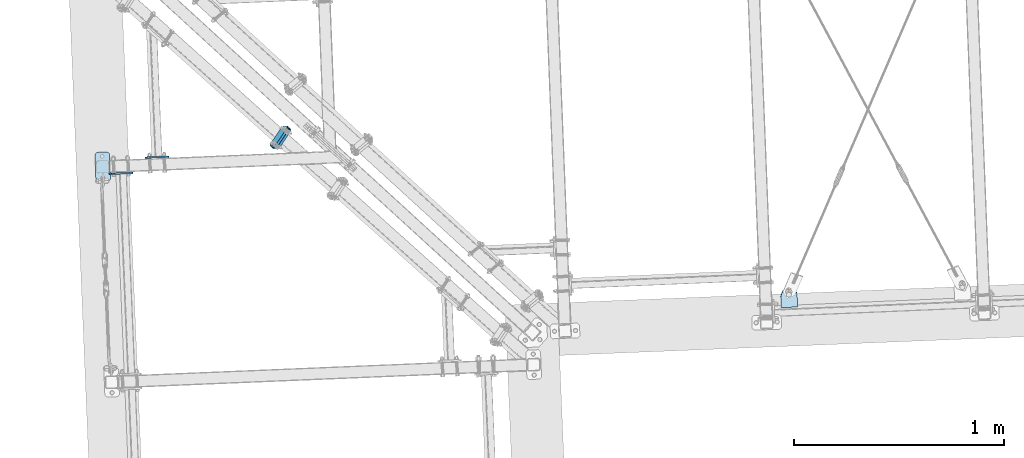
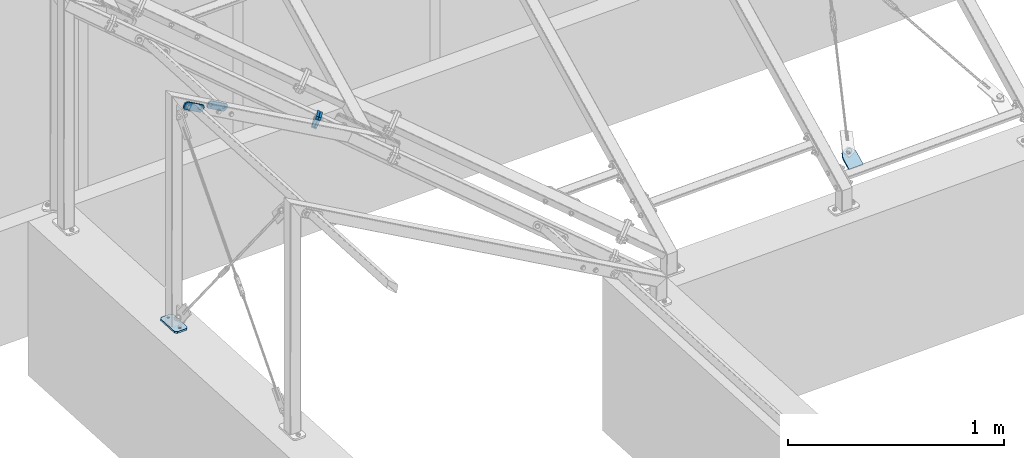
# One storey, part 54 of 288: 6 plates, 38 openings.
"""IFC2X3 building model written with IfcOpenShell, lengths in millimetres."""

from ifc_helpers import new_model, entity, si_unit, converted_unit, point, frame, frame_2d, origin, origin_with_axes, origin_2d_with_axis, place, context, project, spatial, polyline, circle_curve, line_curve, trimmed, segment, composite_curve, circle, outline, extrude, material, layer, layer_set, element, save


model = new_model("IFC2X3")

# Units and contexts
model_context = context("Model", 3, precision=1e-09, world=origin_with_axes())
ifc_project = project(units=[si_unit("LENGTHUNIT", "METRE", prefix="MILLI"), si_unit("AREAUNIT", "SQUARE_METRE"), si_unit("VOLUMEUNIT", "CUBIC_METRE"), converted_unit("PLANEANGLEUNIT", "DEGREE", entity("IfcPlaneAngleMeasure", 0.01745329), si_unit("PLANEANGLEUNIT", "RADIAN"), dimensions=[0, 0, 0, 0, 0, 0, 0])], contexts=[model_context])

# Site, building, storey
site_placement = place(None, origin_with_axes())
site = spatial("IfcSite", under=ifc_project, at=site_placement, Name="Remont ?wietlik?w nad MC w NCPP w Opolu", CompositionType="ELEMENT")
building_placement = place(site_placement, origin_with_axes())
building = spatial("IfcBuilding", under=site, at=building_placement, Name="Konstrukcja 1", CompositionType="ELEMENT")
storey_placement = place(building_placement, origin_with_axes())
storey = spatial("IfcBuildingStorey", under=building, at=storey_placement, Name="Default Storey", CompositionType="ELEMENT", Elevation=0.0)

# Plate, openings
ifc_material = material(Name="S235")
ifc_layer_1 = layer(ifc_material, 8.0)
ifc_layer_set_1 = layer_set([ifc_layer_1], Name="S235")
plate_1_placement = place(None, frame((-697.947111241, 14323.659266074, 1232.679479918), z_axis=(-0.041662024, 0.999131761, 1.7472e-05), x_axis=(0.499566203, 0.020815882, 0.866025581)))
plate_1 = element("IfcPlate", 1, at=plate_1_placement, inside=storey, material=ifc_layer_set_1, Name="-", ObjectType="-", context=model_context, shape_type="SweptSolid", body=[
    extrude(outline(polyline([(0.0, 0.0), (40.0, 0.0), (40.0, 120.0), (0.0, 120.0), (0.0, 0.0)])), origin_with_axes(), (0.0, 0.0, 1.0), 8.0),
])
opening_1_placement = place(plate_1_placement, frame((0.0, 0.0, -0.01), z_axis=(0.0, 0.0, 1.0), x_axis=(1.0, 0.0, 0.0)))
element("IfcOpeningElement", 2, at=opening_1_placement, cuts=plate_1, ObjectType="Opening", context=model_context, shape_type="SweptSolid", body=[
    extrude(outline(composite_curve([segment(trimmed(line_curve((40.0, 0.0), (0.0, 1.0), 10.0), [point((40.0, 0.0))], [point((40.0, 10.0))], True, "CARTESIAN"), True, "CONTINUOUS"), segment(trimmed(circle_curve(frame_2d((30.0, 10.0), x_axis=(-1.0, 0.0)), 10.0), [point((40.0, 10.0))], [point((30.0, 0.0))], False, "CARTESIAN"), True, "CONTINUOUS"), segment(trimmed(line_curve((30.0, 0.0), (1.0, 0.0), 10.0), [point((30.0, 0.0))], [point((40.0, 0.0))], True, "CARTESIAN"), True, "CONTINUOUS")], self_intersect=False)), origin(), (0.0, 0.0, 1.0), 8.02),
])
opening_2_placement = place(plate_1_placement, frame((0.0, 0.0, -0.01), z_axis=(0.0, 0.0, 1.0), x_axis=(1.0, 0.0, 0.0)))
element("IfcOpeningElement", 3, at=opening_2_placement, cuts=plate_1, ObjectType="Opening", context=model_context, shape_type="SweptSolid", body=[
    extrude(outline(composite_curve([segment(trimmed(line_curve((0.0, 0.0), (1.0, 0.0), 10.0), [point((0.0, 0.0))], [point((10.0, 0.0))], True, "CARTESIAN"), True, "CONTINUOUS"), segment(trimmed(circle_curve(frame_2d((10.0, 10.0), x_axis=(-1.0, 0.0)), 10.0), [point((10.0, 0.0))], [point((0.0, 10.0))], False, "CARTESIAN"), True, "CONTINUOUS"), segment(trimmed(line_curve((0.0, 10.0), (0.0, -1.0), 10.0), [point((0.0, 10.0))], [point((0.0, 0.0))], True, "CARTESIAN"), True, "CONTINUOUS")], self_intersect=False)), origin(), (0.0, 0.0, 1.0), 8.02),
])
opening_3_placement = place(plate_1_placement, frame((0.0, 0.0, -0.01), z_axis=(0.0, 0.0, 1.0), x_axis=(1.0, 0.0, 0.0)))
element("IfcOpeningElement", 4, at=opening_3_placement, cuts=plate_1, ObjectType="Opening", context=model_context, shape_type="SweptSolid", body=[
    extrude(outline(composite_curve([segment(trimmed(line_curve((40.0, 120.0), (-1.0, 0.0), 10.0), [point((40.0, 120.0))], [point((30.0, 120.0))], True, "CARTESIAN"), True, "CONTINUOUS"), segment(trimmed(circle_curve(frame_2d((30.0, 110.0), x_axis=(-1.0, 0.0)), 10.0), [point((30.0, 120.0))], [point((40.0, 110.0))], False, "CARTESIAN"), True, "CONTINUOUS"), segment(trimmed(line_curve((40.0, 110.0), (0.0, 1.0), 10.0), [point((40.0, 110.0))], [point((40.0, 120.0))], True, "CARTESIAN"), True, "CONTINUOUS")], self_intersect=False)), origin(), (0.0, 0.0, 1.0), 8.02),
])
opening_4_placement = place(plate_1_placement, frame((0.0, 0.0, -0.01), z_axis=(0.0, 0.0, 1.0), x_axis=(1.0, 0.0, 0.0)))
element("IfcOpeningElement", 5, at=opening_4_placement, cuts=plate_1, ObjectType="Opening", context=model_context, shape_type="SweptSolid", body=[
    extrude(outline(composite_curve([segment(trimmed(line_curve((0.0, 120.0), (0.0, -1.0), 10.0), [point((0.0, 120.0))], [point((0.0, 110.0))], True, "CARTESIAN"), True, "CONTINUOUS"), segment(trimmed(circle_curve(frame_2d((10.0, 110.0), x_axis=(-1.0, 0.0)), 10.0), [point((0.0, 110.0))], [point((10.0, 120.0))], False, "CARTESIAN"), True, "CONTINUOUS"), segment(trimmed(line_curve((10.0, 120.0), (-1.0, 0.0), 10.0), [point((10.0, 120.0))], [point((0.0, 120.0))], True, "CARTESIAN"), True, "CONTINUOUS")], self_intersect=False)), origin(), (0.0, 0.0, 1.0), 8.02),
])
opening_5_placement = place(plate_1_placement, frame((19.999829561, 27.001003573, 8.499903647), z_axis=(-2.0054e-05, 4.2e-07, 1.0), x_axis=(1.0, 0.0, 2.0054e-05)))
element("IfcOpeningElement", 6, at=opening_5_placement, cuts=plate_1, ObjectType="Opening", context=model_context, shape_type="SweptSolid", body=[
    extrude(circle(Radius=7.001, at=frame_2d((-4e-09, -7.001), x_axis=(1.0, 0.0))), origin(), (0.0, 0.0, -1.0), 9.000033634),
])
opening_6_placement = place(plate_1_placement, frame((19.999829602, 107.001003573, 8.499870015), z_axis=(-2.0054e-05, 4.2e-07, 1.0), x_axis=(1.0, 0.0, 2.0054e-05)))
element("IfcOpeningElement", 7, at=opening_6_placement, cuts=plate_1, ObjectType="Opening", context=model_context, shape_type="SweptSolid", body=[
    extrude(circle(Radius=7.001, at=frame_2d((-4e-09, -7.001), x_axis=(1.0, 0.0))), origin(), (0.0, 0.0, -1.0), 9.000033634),
])

plate_2_placement = place(None, frame((-527.73537841, 14400.819367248, 1132.808020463), z_axis=(-0.041662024, 0.999131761, 1.7472e-05), x_axis=(0.499566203, 0.020815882, 0.866025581)))
plate_2 = element("IfcPlate", 8, at=plate_2_placement, inside=storey, material=ifc_layer_set_1, Name="-", ObjectType="-", context=model_context, shape_type="SweptSolid", body=[
    extrude(outline(polyline([(0.0, 0.0), (40.0, 0.0), (40.0, 120.0), (0.0, 120.0), (0.0, 0.0)])), origin_with_axes(), (0.0, 0.0, 1.0), 8.0),
])
opening_7_placement = place(plate_2_placement, frame((0.0, 0.0, -0.01), z_axis=(0.0, 0.0, 1.0), x_axis=(1.0, 0.0, 0.0)))
element("IfcOpeningElement", 9, at=opening_7_placement, cuts=plate_2, ObjectType="Opening", context=model_context, shape_type="SweptSolid", body=[
    extrude(outline(composite_curve([segment(trimmed(line_curve((40.0, 0.0), (0.0, 1.0), 10.0), [point((40.0, 0.0))], [point((40.0, 10.0))], True, "CARTESIAN"), True, "CONTINUOUS"), segment(trimmed(circle_curve(frame_2d((30.0, 10.0), x_axis=(-1.0, 0.0)), 10.0), [point((40.0, 10.0))], [point((30.0, 0.0))], False, "CARTESIAN"), True, "CONTINUOUS"), segment(trimmed(line_curve((30.0, 0.0), (1.0, 0.0), 10.0), [point((30.0, 0.0))], [point((40.0, 0.0))], True, "CARTESIAN"), True, "CONTINUOUS")], self_intersect=False)), origin(), (0.0, 0.0, 1.0), 8.02),
])
opening_8_placement = place(plate_2_placement, frame((0.0, 0.0, -0.01), z_axis=(0.0, 0.0, 1.0), x_axis=(1.0, 0.0, 0.0)))
element("IfcOpeningElement", 10, at=opening_8_placement, cuts=plate_2, ObjectType="Opening", context=model_context, shape_type="SweptSolid", body=[
    extrude(outline(composite_curve([segment(trimmed(line_curve((0.0, 0.0), (1.0, 0.0), 10.0), [point((0.0, 0.0))], [point((10.0, 0.0))], True, "CARTESIAN"), True, "CONTINUOUS"), segment(trimmed(circle_curve(frame_2d((10.0, 10.0), x_axis=(-1.0, 0.0)), 10.0), [point((10.0, 0.0))], [point((0.0, 10.0))], False, "CARTESIAN"), True, "CONTINUOUS"), segment(trimmed(line_curve((0.0, 10.0), (0.0, -1.0), 10.0), [point((0.0, 10.0))], [point((0.0, 0.0))], True, "CARTESIAN"), True, "CONTINUOUS")], self_intersect=False)), origin(), (0.0, 0.0, 1.0), 8.02),
])
opening_9_placement = place(plate_2_placement, frame((0.0, 0.0, -0.01), z_axis=(0.0, 0.0, 1.0), x_axis=(1.0, 0.0, 0.0)))
element("IfcOpeningElement", 11, at=opening_9_placement, cuts=plate_2, ObjectType="Opening", context=model_context, shape_type="SweptSolid", body=[
    extrude(outline(composite_curve([segment(trimmed(line_curve((40.0, 120.0), (-1.0, 0.0), 10.0), [point((40.0, 120.0))], [point((30.0, 120.0))], True, "CARTESIAN"), True, "CONTINUOUS"), segment(trimmed(circle_curve(frame_2d((30.0, 110.0), x_axis=(-1.0, 0.0)), 10.0), [point((30.0, 120.0))], [point((40.0, 110.0))], False, "CARTESIAN"), True, "CONTINUOUS"), segment(trimmed(line_curve((40.0, 110.0), (0.0, 1.0), 10.0), [point((40.0, 110.0))], [point((40.0, 120.0))], True, "CARTESIAN"), True, "CONTINUOUS")], self_intersect=False)), origin(), (0.0, 0.0, 1.0), 8.02),
])
opening_10_placement = place(plate_2_placement, frame((0.0, 0.0, -0.01), z_axis=(0.0, 0.0, 1.0), x_axis=(1.0, 0.0, 0.0)))
element("IfcOpeningElement", 12, at=opening_10_placement, cuts=plate_2, ObjectType="Opening", context=model_context, shape_type="SweptSolid", body=[
    extrude(outline(composite_curve([segment(trimmed(line_curve((0.0, 120.0), (0.0, -1.0), 10.0), [point((0.0, 120.0))], [point((0.0, 110.0))], True, "CARTESIAN"), True, "CONTINUOUS"), segment(trimmed(circle_curve(frame_2d((10.0, 110.0), x_axis=(-1.0, 0.0)), 10.0), [point((0.0, 110.0))], [point((10.0, 120.0))], False, "CARTESIAN"), True, "CONTINUOUS"), segment(trimmed(line_curve((10.0, 120.0), (-1.0, 0.0), 10.0), [point((10.0, 120.0))], [point((0.0, 120.0))], True, "CARTESIAN"), True, "CONTINUOUS")], self_intersect=False)), origin(), (0.0, 0.0, 1.0), 8.02),
])
opening_11_placement = place(plate_2_placement, frame((19.99842578, 27.001033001, 8.499903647), z_axis=(-2.0054e-05, 4.2e-07, 1.0), x_axis=(1.0, 0.0, 2.0054e-05)))
element("IfcOpeningElement", 13, at=opening_11_placement, cuts=plate_2, ObjectType="Opening", context=model_context, shape_type="SweptSolid", body=[
    extrude(circle(Radius=7.001, at=frame_2d((-4e-09, -7.001), x_axis=(1.0, 0.0))), origin(), (0.0, 0.0, -1.0), 9.000033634),
])
opening_12_placement = place(plate_2_placement, frame((19.998425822, 107.001033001, 8.499870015), z_axis=(-2.0054e-05, 4.2e-07, 1.0), x_axis=(1.0, 0.0, 2.0054e-05)))
element("IfcOpeningElement", 14, at=opening_12_placement, cuts=plate_2, ObjectType="Opening", context=model_context, shape_type="SweptSolid", body=[
    extrude(circle(Radius=7.001, at=frame_2d((-4e-09, -7.001), x_axis=(1.0, 0.0))), origin(), (0.0, 0.0, -1.0), 9.000033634),
])

ifc_layer_2 = layer(ifc_material, 10.0)
ifc_layer_set_2 = layer_set([ifc_layer_2], Name="S235")
plate_3_placement = place(None, frame((-761.990295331, 14430.082499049, 10.000000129), z_axis=(0.0, 0.0, -1.0), x_axis=(0.999131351, 0.041671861, 0.0)))
plate_3 = element("IfcPlate", 15, at=plate_3_placement, inside=storey, material=ifc_layer_set_2, Name="Baseplate", ObjectType="Baseplate", context=model_context, shape_type="SweptSolid", body=[
    extrude(outline(polyline([(0.0, 0.0), (70.0, 0.0), (70.0, 140.0), (0.0, 140.0), (0.0, 0.0)])), origin_with_axes(), (0.0, 0.0, 1.0), 10.0),
])
opening_13_placement = place(plate_3_placement, frame((0.0, 0.0, -0.01), z_axis=(0.0, 0.0, 1.0), x_axis=(1.0, 0.0, 0.0)))
element("IfcOpeningElement", 16, at=opening_13_placement, cuts=plate_3, ObjectType="Opening", context=model_context, shape_type="SweptSolid", body=[
    extrude(outline(composite_curve([segment(trimmed(line_curve((70.0, 0.0), (0.0, 1.0), 10.0), [point((70.0, 0.0))], [point((70.0, 10.0))], True, "CARTESIAN"), True, "CONTINUOUS"), segment(trimmed(circle_curve(frame_2d((60.0, 10.0), x_axis=(-1.0, 0.0)), 10.0), [point((70.0, 10.0))], [point((60.0, 0.0))], False, "CARTESIAN"), True, "CONTINUOUS"), segment(trimmed(line_curve((60.0, 0.0), (1.0, 0.0), 10.0), [point((60.0, 0.0))], [point((70.0, 0.0))], True, "CARTESIAN"), True, "CONTINUOUS")], self_intersect=False)), origin(), (0.0, 0.0, 1.0), 10.02),
])
opening_14_placement = place(plate_3_placement, frame((0.0, 0.0, -0.01), z_axis=(0.0, 0.0, 1.0), x_axis=(1.0, 0.0, 0.0)))
element("IfcOpeningElement", 17, at=opening_14_placement, cuts=plate_3, ObjectType="Opening", context=model_context, shape_type="SweptSolid", body=[
    extrude(outline(composite_curve([segment(trimmed(line_curve((0.0, 0.0), (1.0, 0.0), 10.0), [point((0.0, 0.0))], [point((10.0, 0.0))], True, "CARTESIAN"), True, "CONTINUOUS"), segment(trimmed(circle_curve(frame_2d((10.0, 10.0), x_axis=(-1.0, 0.0)), 10.0), [point((10.0, 0.0))], [point((0.0, 10.0))], False, "CARTESIAN"), True, "CONTINUOUS"), segment(trimmed(line_curve((0.0, 10.0), (0.0, -1.0), 10.0), [point((0.0, 10.0))], [point((0.0, 0.0))], True, "CARTESIAN"), True, "CONTINUOUS")], self_intersect=False)), origin(), (0.0, 0.0, 1.0), 10.02),
])
opening_15_placement = place(plate_3_placement, frame((0.0, 0.0, -0.01), z_axis=(0.0, 0.0, 1.0), x_axis=(1.0, 0.0, 0.0)))
element("IfcOpeningElement", 18, at=opening_15_placement, cuts=plate_3, ObjectType="Opening", context=model_context, shape_type="SweptSolid", body=[
    extrude(outline(composite_curve([segment(trimmed(line_curve((70.0, 140.0), (-1.0, 0.0), 10.0), [point((70.0, 140.0))], [point((60.0, 140.0))], True, "CARTESIAN"), True, "CONTINUOUS"), segment(trimmed(circle_curve(frame_2d((60.0, 130.0), x_axis=(-1.0, 0.0)), 10.0), [point((60.0, 140.0))], [point((70.0, 130.0))], False, "CARTESIAN"), True, "CONTINUOUS"), segment(trimmed(line_curve((70.0, 130.0), (0.0, 1.0), 10.0), [point((70.0, 130.0))], [point((70.0, 140.0))], True, "CARTESIAN"), True, "CONTINUOUS")], self_intersect=False)), origin(), (0.0, 0.0, 1.0), 10.02),
])
opening_16_placement = place(plate_3_placement, frame((0.0, 0.0, -0.01), z_axis=(0.0, 0.0, 1.0), x_axis=(1.0, 0.0, 0.0)))
element("IfcOpeningElement", 19, at=opening_16_placement, cuts=plate_3, ObjectType="Opening", context=model_context, shape_type="SweptSolid", body=[
    extrude(outline(composite_curve([segment(trimmed(line_curve((0.0, 140.0), (0.0, -1.0), 10.0), [point((0.0, 140.0))], [point((0.0, 130.0))], True, "CARTESIAN"), True, "CONTINUOUS"), segment(trimmed(circle_curve(frame_2d((10.0, 130.0), x_axis=(-1.0, 0.0)), 10.0), [point((0.0, 130.0))], [point((10.0, 140.0))], False, "CARTESIAN"), True, "CONTINUOUS"), segment(trimmed(line_curve((10.0, 140.0), (-1.0, 0.0), 10.0), [point((10.0, 140.0))], [point((0.0, 140.0))], True, "CARTESIAN"), True, "CONTINUOUS")], self_intersect=False)), origin(), (0.0, 0.0, 1.0), 10.02),
])
opening_17_placement = place(plate_3_placement, frame((35.0, 20.0, 10.5), z_axis=(0.0, 0.0, -1.0), x_axis=(1.0, 0.0, 0.0)))
element("IfcOpeningElement", 20, at=opening_17_placement, cuts=plate_3, ObjectType="Opening", context=model_context, shape_type="SweptSolid", body=[
    extrude(circle(Radius=6.001, at=origin_2d_with_axis()), origin(), (0.0, 0.0, 1.0), 11.0),
])
opening_18_placement = place(plate_3_placement, frame((35.0, 120.0, 10.5), z_axis=(0.0, 0.0, -1.0), x_axis=(1.0, 0.0, 0.0)))
element("IfcOpeningElement", 21, at=opening_18_placement, cuts=plate_3, ObjectType="Opening", context=model_context, shape_type="SweptSolid", body=[
    extrude(circle(Radius=6.001, at=origin_2d_with_axis()), origin(), (0.0, 0.0, 1.0), 11.0),
])

ifc_layer_3 = layer(ifc_material, 12.0)
ifc_layer_set_3 = layer_set([ifc_layer_3], Name="S235")
plate_4_placement = place(None, frame((105.788392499, 14453.89859045, 823.698605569), z_axis=(0.688159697, -0.616779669, -0.382124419), x_axis=(-0.499565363, -0.020836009, -0.866025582)))
plate_4 = element("IfcPlate", 22, at=plate_4_placement, inside=storey, material=ifc_layer_set_3, Name="Endplate#1", ObjectType="Endplate#1", context=model_context, shape_type="SweptSolid", body=[
    extrude(outline(polyline([(0.0, 0.0), (60.0, 0.0), (60.0, 120.0), (0.0, 120.0), (0.0, 0.0)])), origin_with_axes(), (0.0, 0.0, 1.0), 12.0),
])
opening_19_placement = place(plate_4_placement, frame((15.0, 60.0, 12.5), z_axis=(0.0, 0.0, -1.0), x_axis=(1.0, 0.0, 0.0)))
element("IfcOpeningElement", 23, at=opening_19_placement, cuts=plate_4, ObjectType="Opening", context=model_context, shape_type="SweptSolid", body=[
    extrude(circle(Radius=6.001, at=frame_2d((0.0, 45.0), x_axis=(1.0, 0.0))), origin(), (0.0, 0.0, 1.0), 13.0),
])
opening_20_placement = place(plate_4_placement, frame((15.0, 60.0, 12.5), z_axis=(0.0, 0.0, -1.0), x_axis=(1.0, 0.0, 0.0)))
element("IfcOpeningElement", 24, at=opening_20_placement, cuts=plate_4, ObjectType="Opening", context=model_context, shape_type="SweptSolid", body=[
    extrude(circle(Radius=6.001, at=frame_2d((0.0, -45.0), x_axis=(1.0, 0.0))), origin(), (0.0, 0.0, 1.0), 13.0),
])
opening_21_placement = place(plate_4_placement, frame((45.0, 60.0, 12.5), z_axis=(0.0, 0.0, -1.0), x_axis=(1.0, 0.0, 0.0)))
element("IfcOpeningElement", 25, at=opening_21_placement, cuts=plate_4, ObjectType="Opening", context=model_context, shape_type="SweptSolid", body=[
    extrude(circle(Radius=6.001, at=frame_2d((0.0, 45.0), x_axis=(1.0, 0.0))), origin(), (0.0, 0.0, 1.0), 13.0),
])
opening_22_placement = place(plate_4_placement, frame((45.0, 60.0, 12.5), z_axis=(0.0, 0.0, -1.0), x_axis=(1.0, 0.0, 0.0)))
element("IfcOpeningElement", 26, at=opening_22_placement, cuts=plate_4, ObjectType="Opening", context=model_context, shape_type="SweptSolid", body=[
    extrude(circle(Radius=6.001, at=frame_2d((0.0, -45.0), x_axis=(1.0, 0.0))), origin(), (0.0, 0.0, 1.0), 13.0),
])
opening_23_placement = place(plate_4_placement, frame((0.0, 0.0, -0.01), z_axis=(0.0, 0.0, 1.0), x_axis=(1.0, 0.0, 0.0)))
element("IfcOpeningElement", 27, at=opening_23_placement, cuts=plate_4, ObjectType="Opening", context=model_context, shape_type="SweptSolid", body=[
    extrude(outline(composite_curve([segment(trimmed(line_curve((0.0, 120.0), (0.0, -1.0), 10.0), [point((0.0, 120.0))], [point((0.0, 110.0))], True, "CARTESIAN"), True, "CONTINUOUS"), segment(trimmed(circle_curve(frame_2d((10.0, 110.0), x_axis=(-1.0, 0.0)), 10.0), [point((0.0, 110.0))], [point((10.0, 120.0))], False, "CARTESIAN"), True, "CONTINUOUS"), segment(trimmed(line_curve((10.0, 120.0), (-1.0, 0.0), 10.0), [point((10.0, 120.0))], [point((0.0, 120.0))], True, "CARTESIAN"), True, "CONTINUOUS")], self_intersect=False)), origin(), (0.0, 0.0, 1.0), 12.02),
])
opening_24_placement = place(plate_4_placement, frame((0.0, 0.0, -0.01), z_axis=(0.0, 0.0, 1.0), x_axis=(1.0, 0.0, 0.0)))
element("IfcOpeningElement", 28, at=opening_24_placement, cuts=plate_4, ObjectType="Opening", context=model_context, shape_type="SweptSolid", body=[
    extrude(outline(composite_curve([segment(trimmed(line_curve((60.0, 0.0), (0.0, 1.0), 10.0), [point((60.0, 0.0))], [point((60.0, 10.0))], True, "CARTESIAN"), True, "CONTINUOUS"), segment(trimmed(circle_curve(frame_2d((50.0, 10.0), x_axis=(-1.0, 0.0)), 10.0), [point((60.0, 10.0))], [point((50.0, 0.0))], False, "CARTESIAN"), True, "CONTINUOUS"), segment(trimmed(line_curve((50.0, 0.0), (1.0, 0.0), 10.0), [point((50.0, 0.0))], [point((60.0, 0.0))], True, "CARTESIAN"), True, "CONTINUOUS")], self_intersect=False)), origin(), (0.0, 0.0, 1.0), 12.02),
])
opening_25_placement = place(plate_4_placement, frame((0.0, 0.0, -0.01), z_axis=(0.0, 0.0, 1.0), x_axis=(1.0, 0.0, 0.0)))
element("IfcOpeningElement", 29, at=opening_25_placement, cuts=plate_4, ObjectType="Opening", context=model_context, shape_type="SweptSolid", body=[
    extrude(outline(composite_curve([segment(trimmed(line_curve((0.0, 0.0), (1.0, 0.0), 10.0), [point((0.0, 0.0))], [point((10.0, 0.0))], True, "CARTESIAN"), True, "CONTINUOUS"), segment(trimmed(circle_curve(frame_2d((10.0, 10.0), x_axis=(-1.0, 0.0)), 10.0), [point((10.0, 0.0))], [point((0.0, 10.0))], False, "CARTESIAN"), True, "CONTINUOUS"), segment(trimmed(line_curve((0.0, 10.0), (0.0, -1.0), 10.0), [point((0.0, 10.0))], [point((0.0, 0.0))], True, "CARTESIAN"), True, "CONTINUOUS")], self_intersect=False)), origin(), (0.0, 0.0, 1.0), 12.02),
])
opening_26_placement = place(plate_4_placement, frame((0.0, 0.0, -0.01), z_axis=(0.0, 0.0, 1.0), x_axis=(1.0, 0.0, 0.0)))
element("IfcOpeningElement", 30, at=opening_26_placement, cuts=plate_4, ObjectType="Opening", context=model_context, shape_type="SweptSolid", body=[
    extrude(outline(composite_curve([segment(trimmed(line_curve((60.0, 120.0), (-1.0, 0.0), 10.0), [point((60.0, 120.0))], [point((50.0, 120.0))], True, "CARTESIAN"), True, "CONTINUOUS"), segment(trimmed(circle_curve(frame_2d((50.0, 110.0), x_axis=(-1.0, 0.0)), 10.0), [point((50.0, 120.0))], [point((60.0, 110.0))], False, "CARTESIAN"), True, "CONTINUOUS"), segment(trimmed(line_curve((60.0, 110.0), (0.0, 1.0), 10.0), [point((60.0, 110.0))], [point((60.0, 120.0))], True, "CARTESIAN"), True, "CONTINUOUS")], self_intersect=False)), origin(), (0.0, 0.0, 1.0), 12.02),
])

plate_5_placement = place(None, frame((96.842316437, 14461.916726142, 828.666223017), z_axis=(0.688159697, -0.616779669, -0.382124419), x_axis=(-0.499565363, -0.020836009, -0.866025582)))
plate_5 = element("IfcPlate", 31, at=plate_5_placement, inside=storey, material=ifc_layer_set_3, Name="Endplate#2", ObjectType="Endplate#2", context=model_context, shape_type="SweptSolid", body=[
    extrude(outline(polyline([(0.0, 0.0), (60.0, 0.0), (60.0, 120.0), (0.0, 120.0), (0.0, 0.0)])), origin_with_axes(), (0.0, 0.0, 1.0), 12.0),
])
opening_27_placement = place(plate_5_placement, frame((15.0, 60.0, 12.5), z_axis=(0.0, 0.0, -1.0), x_axis=(1.0, 0.0, 0.0)))
element("IfcOpeningElement", 32, at=opening_27_placement, cuts=plate_5, ObjectType="Opening", context=model_context, shape_type="SweptSolid", body=[
    extrude(circle(Radius=6.001, at=frame_2d((0.0, 45.0), x_axis=(1.0, 0.0))), origin(), (0.0, 0.0, 1.0), 13.0),
])
opening_28_placement = place(plate_5_placement, frame((15.0, 60.0, 12.5), z_axis=(0.0, 0.0, -1.0), x_axis=(1.0, 0.0, 0.0)))
element("IfcOpeningElement", 33, at=opening_28_placement, cuts=plate_5, ObjectType="Opening", context=model_context, shape_type="SweptSolid", body=[
    extrude(circle(Radius=6.001, at=frame_2d((0.0, -45.0), x_axis=(1.0, 0.0))), origin(), (0.0, 0.0, 1.0), 13.0),
])
opening_29_placement = place(plate_5_placement, frame((45.0, 60.0, 12.5), z_axis=(0.0, 0.0, -1.0), x_axis=(1.0, 0.0, 0.0)))
element("IfcOpeningElement", 34, at=opening_29_placement, cuts=plate_5, ObjectType="Opening", context=model_context, shape_type="SweptSolid", body=[
    extrude(circle(Radius=6.001, at=frame_2d((0.0, 45.0), x_axis=(1.0, 0.0))), origin(), (0.0, 0.0, 1.0), 13.0),
])
opening_30_placement = place(plate_5_placement, frame((45.0, 60.0, 12.5), z_axis=(0.0, 0.0, -1.0), x_axis=(1.0, 0.0, 0.0)))
element("IfcOpeningElement", 35, at=opening_30_placement, cuts=plate_5, ObjectType="Opening", context=model_context, shape_type="SweptSolid", body=[
    extrude(circle(Radius=6.001, at=frame_2d((0.0, -45.0), x_axis=(1.0, 0.0))), origin(), (0.0, 0.0, 1.0), 13.0),
])
opening_31_placement = place(plate_5_placement, frame((0.0, 0.0, -0.01), z_axis=(0.0, 0.0, 1.0), x_axis=(1.0, 0.0, 0.0)))
element("IfcOpeningElement", 36, at=opening_31_placement, cuts=plate_5, ObjectType="Opening", context=model_context, shape_type="SweptSolid", body=[
    extrude(outline(composite_curve([segment(trimmed(line_curve((0.0, 120.0), (0.0, -1.0), 10.0), [point((0.0, 120.0))], [point((0.0, 110.0))], True, "CARTESIAN"), True, "CONTINUOUS"), segment(trimmed(circle_curve(frame_2d((10.0, 110.0), x_axis=(-1.0, 0.0)), 10.0), [point((0.0, 110.0))], [point((10.0, 120.0))], False, "CARTESIAN"), True, "CONTINUOUS"), segment(trimmed(line_curve((10.0, 120.0), (-1.0, 0.0), 10.0), [point((10.0, 120.0))], [point((0.0, 120.0))], True, "CARTESIAN"), True, "CONTINUOUS")], self_intersect=False)), origin(), (0.0, 0.0, 1.0), 12.02),
])
opening_32_placement = place(plate_5_placement, frame((0.0, 0.0, -0.01), z_axis=(0.0, 0.0, 1.0), x_axis=(1.0, 0.0, 0.0)))
element("IfcOpeningElement", 37, at=opening_32_placement, cuts=plate_5, ObjectType="Opening", context=model_context, shape_type="SweptSolid", body=[
    extrude(outline(composite_curve([segment(trimmed(line_curve((60.0, 0.0), (0.0, 1.0), 10.0), [point((60.0, 0.0))], [point((60.0, 10.0))], True, "CARTESIAN"), True, "CONTINUOUS"), segment(trimmed(circle_curve(frame_2d((50.0, 10.0), x_axis=(-1.0, 0.0)), 10.0), [point((60.0, 10.0))], [point((50.0, 0.0))], False, "CARTESIAN"), True, "CONTINUOUS"), segment(trimmed(line_curve((50.0, 0.0), (1.0, 0.0), 10.0), [point((50.0, 0.0))], [point((60.0, 0.0))], True, "CARTESIAN"), True, "CONTINUOUS")], self_intersect=False)), origin(), (0.0, 0.0, 1.0), 12.02),
])
opening_33_placement = place(plate_5_placement, frame((0.0, 0.0, -0.01), z_axis=(0.0, 0.0, 1.0), x_axis=(1.0, 0.0, 0.0)))
element("IfcOpeningElement", 38, at=opening_33_placement, cuts=plate_5, ObjectType="Opening", context=model_context, shape_type="SweptSolid", body=[
    extrude(outline(composite_curve([segment(trimmed(line_curve((0.0, 0.0), (1.0, 0.0), 10.0), [point((0.0, 0.0))], [point((10.0, 0.0))], True, "CARTESIAN"), True, "CONTINUOUS"), segment(trimmed(circle_curve(frame_2d((10.0, 10.0), x_axis=(-1.0, 0.0)), 10.0), [point((10.0, 0.0))], [point((0.0, 10.0))], False, "CARTESIAN"), True, "CONTINUOUS"), segment(trimmed(line_curve((0.0, 10.0), (0.0, -1.0), 10.0), [point((0.0, 10.0))], [point((0.0, 0.0))], True, "CARTESIAN"), True, "CONTINUOUS")], self_intersect=False)), origin(), (0.0, 0.0, 1.0), 12.02),
])
opening_34_placement = place(plate_5_placement, frame((0.0, 0.0, -0.01), z_axis=(0.0, 0.0, 1.0), x_axis=(1.0, 0.0, 0.0)))
element("IfcOpeningElement", 39, at=opening_34_placement, cuts=plate_5, ObjectType="Opening", context=model_context, shape_type="SweptSolid", body=[
    extrude(outline(composite_curve([segment(trimmed(line_curve((60.0, 120.0), (-1.0, 0.0), 10.0), [point((60.0, 120.0))], [point((50.0, 120.0))], True, "CARTESIAN"), True, "CONTINUOUS"), segment(trimmed(circle_curve(frame_2d((50.0, 110.0), x_axis=(-1.0, 0.0)), 10.0), [point((50.0, 120.0))], [point((60.0, 110.0))], False, "CARTESIAN"), True, "CONTINUOUS"), segment(trimmed(line_curve((60.0, 110.0), (0.0, 1.0), 10.0), [point((60.0, 110.0))], [point((60.0, 120.0))], True, "CARTESIAN"), True, "CONTINUOUS")], self_intersect=False)), origin(), (0.0, 0.0, 1.0), 12.02),
])

plate_6_placement = place(None, frame((2578.743433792, 13781.689568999, 195.89316998), z_axis=(0.021594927, -0.503513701, 0.863717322), x_axis=(-0.936472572, 0.292319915, 0.19382515)))
plate_6 = element("IfcPlate", 40, at=plate_6_placement, inside=storey, material=ifc_layer_set_1, Name="Gusset#1", ObjectType="Gusset#1", context=model_context, shape_type="SweptSolid", body=[
    extrude(outline(polyline([(0.0, 0.0), (60.0, 0.0), (60.0, 60.0), (35.448712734, 119.021233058), (-36.977502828, 88.893824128), (0.0, 0.0)])), origin_with_axes(), (0.0, 0.0, 1.0), 8.0),
])
opening_35_placement = place(plate_6_placement, frame((30.0, 30.0, -0.5), z_axis=(0.0, 0.0, 1.0), x_axis=(0.0, -1.0, 0.0)))
element("IfcOpeningElement", 41, at=opening_35_placement, cuts=plate_6, ObjectType="Opening", context=model_context, shape_type="SweptSolid", body=[
    extrude(circle(Radius=9.001, at=origin_2d_with_axis()), origin(), (0.0, 0.0, 1.0), 9.0),
])
opening_36_placement = place(plate_6_placement, frame((0.0, 0.0, -0.01), z_axis=(0.0, 0.0, 1.0), x_axis=(1.0, 0.0, 0.0)))
element("IfcOpeningElement", 42, at=opening_36_placement, cuts=plate_6, ObjectType="Opening", context=model_context, shape_type="SweptSolid", body=[
    extrude(outline(composite_curve([segment(trimmed(line_curve((60.0, 60.0), (-0.384070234, 0.92330388), 5.990788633), [point((60.0, 60.0))], [point((57.699116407, 65.53131839))], True, "CARTESIAN"), True, "CONTINUOUS"), segment(trimmed(circle_curve(frame_2d((30.0, 54.009211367), x_axis=(-1.0, 0.0)), 30.0), [point((57.699116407, 65.53131839))], [point((60.0, 54.009211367))], False, "CARTESIAN"), True, "CONTINUOUS"), segment(trimmed(line_curve((60.0, 54.009211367), (0.0, 1.0), 5.990788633), [point((60.0, 54.009211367))], [point((60.0, 60.0))], True, "CARTESIAN"), True, "CONTINUOUS")], self_intersect=False)), origin(), (0.0, 0.0, 1.0), 8.02),
])
opening_37_placement = place(plate_6_placement, frame((0.0, 0.0, -0.01), z_axis=(0.0, 0.0, 1.0), x_axis=(1.0, 0.0, 0.0)))
element("IfcOpeningElement", 43, at=opening_37_placement, cuts=plate_6, ObjectType="Opening", context=model_context, shape_type="SweptSolid", body=[
    extrude(outline(composite_curve([segment(trimmed(line_curve((60.0, 0.0), (0.0, 1.0), 30.0), [point((60.0, 0.0))], [point((60.0, 30.0))], True, "CARTESIAN"), True, "CONTINUOUS"), segment(trimmed(circle_curve(frame_2d((30.0, 30.0), x_axis=(-1.0, 0.0)), 30.0), [point((60.0, 30.0))], [point((30.0, 0.0))], False, "CARTESIAN"), True, "CONTINUOUS"), segment(trimmed(line_curve((30.0, 0.0), (1.0, 0.0), 30.0), [point((30.0, 0.0))], [point((60.0, 0.0))], True, "CARTESIAN"), True, "CONTINUOUS")], self_intersect=False)), origin(), (0.0, 0.0, 1.0), 8.02),
])
opening_38_placement = place(plate_6_placement, frame((0.0, 0.0, -0.01), z_axis=(0.0, 0.0, 1.0), x_axis=(1.0, 0.0, 0.0)))
element("IfcOpeningElement", 44, at=opening_38_placement, cuts=plate_6, ObjectType="Opening", context=model_context, shape_type="SweptSolid", body=[
    extrude(outline(composite_curve([segment(trimmed(line_curve((0.0, 0.0), (1.0, 0.0), 20.01279684), [point((0.0, 0.0))], [point((20.01279684, 0.0))], True, "CARTESIAN"), True, "CONTINUOUS"), segment(trimmed(circle_curve(frame_2d((20.01279684, 30.0), x_axis=(-1.0, 0.0)), 30.0), [point((20.01279684, 0.0))], [point((-7.686319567, 18.477892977))], False, "CARTESIAN"), True, "CONTINUOUS"), segment(trimmed(line_curve((-7.686319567, 18.477892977), (0.384070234, -0.92330388), 20.01279684), [point((-7.686319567, 18.477892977))], [point((0.0, 0.0))], True, "CARTESIAN"), True, "CONTINUOUS")], self_intersect=False)), origin(), (0.0, 0.0, 1.0), 8.02),
])

save(model, "model.ifc")
